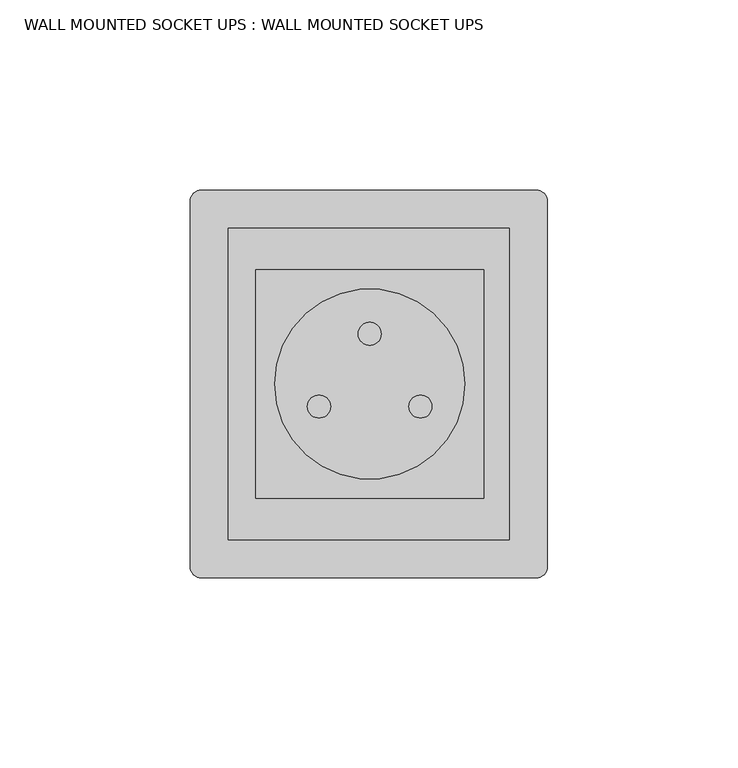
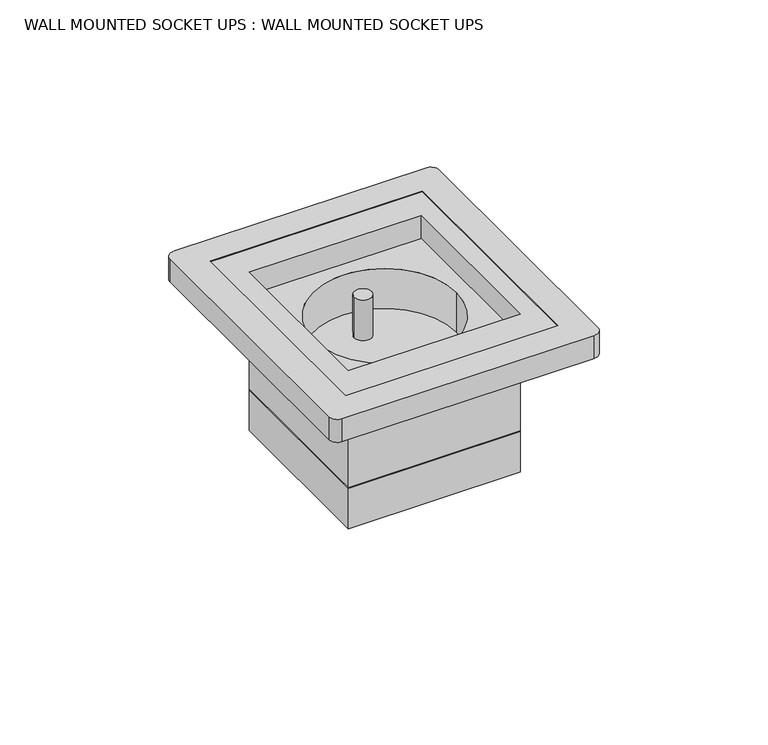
"""IFC4 building model written with IfcOpenShell, lengths in millimetres: proxy geometry, WALL MOUNTED SOCKET UPS : WALL MOUNTED SOCKET UPS."""

from ifc_helpers import new_model, si_unit, point, frame, frame_2d, origin, origin_with_axes, origin_2d, place, context, project, spatial, polyline, circle_curve, trimmed, segment, composite_curve, outline, extrude, source, transform, mapped, element, save


def wall_mounted_socket_ups_wall_mounted_socket_ups_45274923(model_context):
    return source(origin(), model_context, "Body", "SweptSolid", [
        extrude(outline(composite_curve([segment(polyline([(-47.25, -48.0), (-47.25, 48.0)]), True, "CONTINUOUS"), segment(trimmed(circle_curve(frame_2d((-44.25, 48.0)), 3.0), [point((-47.25, 48.0))], [point((-44.25, 51.0))], False, "CARTESIAN"), True, "CONTINUOUS"), segment(polyline([(-44.25, 51.0), (43.75, 51.0)]), True, "CONTINUOUS"), segment(trimmed(circle_curve(frame_2d((43.75, 48.0)), 3.0), [point((43.75, 51.0))], [point((46.75, 48.0))], False, "CARTESIAN"), True, "CONTINUOUS"), segment(polyline([(46.75, 48.0), (46.75, -48.0)]), True, "CONTINUOUS"), segment(trimmed(circle_curve(frame_2d((43.75, -48.0)), 3.0), [point((46.75, -48.0))], [point((43.75, -51.0))], False, "CARTESIAN"), True, "CONTINUOUS"), segment(polyline([(43.75, -51.0), (-44.25, -51.0)]), True, "CONTINUOUS"), segment(trimmed(circle_curve(frame_2d((-44.25, -48.0)), 3.0), [point((-44.25, -51.0))], [point((-47.25, -48.0))], False, "CARTESIAN"), True, "CONTINUOUS")], self_intersect=False), holes=[polyline([(-37.25, 41.0), (-37.25, -41.0), (36.75, -41.0), (36.75, 41.0), (-37.25, 41.0)])]), origin_with_axes(), (0.0, 0.0, 1.0), 8.5),
        extrude(outline(composite_curve([segment(trimmed(circle_curve(frame_2d((0.0, 13.1689594)), 3.0295354), [point((3.0295354, 13.1689594))], [point((-3.0295354, 13.1689594))], False, "CARTESIAN"), True, "CONTINUOUS"), segment(trimmed(circle_curve(frame_2d((0.0, 13.1689594)), 3.0295354), [point((-3.0295354, 13.1689594))], [point((3.0295354, 13.1689594))], False, "CARTESIAN"), True, "CONTINUOUS")], self_intersect=False)), frame((0.0, 0.0, -15.0), z_axis=(0.0, 0.0, 1.0), x_axis=(1.0, 0.0, 0.0)), (0.0, 0.0, 1.0), 15.0),
        extrude(outline(polyline([(-30.0, 30.0), (30.0, 30.0), (30.0, -30.0), (-30.0, -30.0), (-30.0, 30.0)])), frame((0.0, 0.0, -50.0), z_axis=(0.0, 0.0, 1.0), x_axis=(1.0, 0.0, 0.0)), (0.0, 0.0, 1.0), 15.0),
        extrude(outline(polyline([(30.0, -30.0), (-30.0, -30.0), (-30.0, 30.0), (30.0, 30.0), (30.0, -30.0)]), holes=[composite_curve([segment(trimmed(circle_curve(frame_2d((-13.346453, -5.9309446)), 3.0295354), [point((-16.3759884, -5.9309446))], [point((-10.3169176, -5.9309446))], True, "CARTESIAN"), True, "CONTINUOUS"), segment(trimmed(circle_curve(frame_2d((-13.346453, -5.9309446)), 3.0295354), [point((-10.3169176, -5.9309446))], [point((-16.3759884, -5.9309446))], True, "CARTESIAN"), True, "CONTINUOUS")], self_intersect=False), composite_curve([segment(trimmed(circle_curve(frame_2d((13.346453, -5.9309446)), 3.0295354), [point((10.3169176, -5.9309446))], [point((16.3759884, -5.9309446))], True, "CARTESIAN"), True, "CONTINUOUS"), segment(trimmed(circle_curve(frame_2d((13.346453, -5.9309446)), 3.0295354), [point((16.3759884, -5.9309446))], [point((10.3169176, -5.9309446))], True, "CARTESIAN"), True, "CONTINUOUS")], self_intersect=False)]), frame((0.0, 0.0, -35.0), z_axis=(0.0, 0.0, 1.0), x_axis=(1.0, 0.0, 0.0)), (0.0, 0.0, 1.0), 20.0),
        extrude(outline(polyline([(30.0, 30.0), (30.0, -30.0), (-30.0, -30.0), (-30.0, 30.0), (30.0, 30.0)]), holes=[composite_curve([segment(trimmed(circle_curve(origin_2d(), 25.0), [point((25.0, 0.0))], [point((-25.0, 0.0))], True, "CARTESIAN"), True, "CONTINUOUS"), segment(trimmed(circle_curve(origin_2d(), 25.0), [point((-25.0, 0.0))], [point((25.0, 0.0))], True, "CARTESIAN"), True, "CONTINUOUS")], self_intersect=False)]), frame((0.0, 0.0, -15.0), z_axis=(0.0, 0.0, 1.0), x_axis=(1.0, 0.0, 0.0)), (0.0, 0.0, 1.0), 15.0),
        extrude(outline(polyline([(-37.25, 41.0), (36.75, 41.0), (36.75, -41.0), (-37.25, -41.0), (-37.25, 41.0)]), holes=[polyline([(30.0, -30.0), (30.0, 30.0), (-30.0, 30.0), (-30.0, -30.0), (30.0, -30.0)])]), origin_with_axes(), (0.0, 0.0, 1.0), 8.5),
    ])


if __name__ == "__main__":
    model = new_model("IFC4")
    model_context = context("Model", 3, world=origin())
    ifc_project = project(units=[si_unit("LENGTHUNIT", "METRE", prefix="MILLI")], contexts=[model_context])
    site = spatial("IfcSite", under=ifc_project)
    building = spatial("IfcBuilding", under=site)
    placement = place(None, origin())
    wall_mounted_socket_ups_wall_mounted_socket_ups_shape = wall_mounted_socket_ups_wall_mounted_socket_ups_45274923(model_context)
    element("IfcBuildingElementProxy", 1, Name="WALL MOUNTED SOCKET UPS : WALL MOUNTED SOCKET UPS", ObjectType="WALL MOUNTED SOCKET UPS : WALL MOUNTED SOCKET UPS", at=placement, inside=building, context=model_context, shape_type="MappedRepresentation", body=[
        mapped(wall_mounted_socket_ups_wall_mounted_socket_ups_shape, transform((0.0, 0.0, 0.0), x_axis=(1.0, 0.0, 0.0), y_axis=(0.0, 1.0, 0.0), z_axis=(0.0, 0.0, 1.0))),
    ])
    save(model, "model.ifc")
